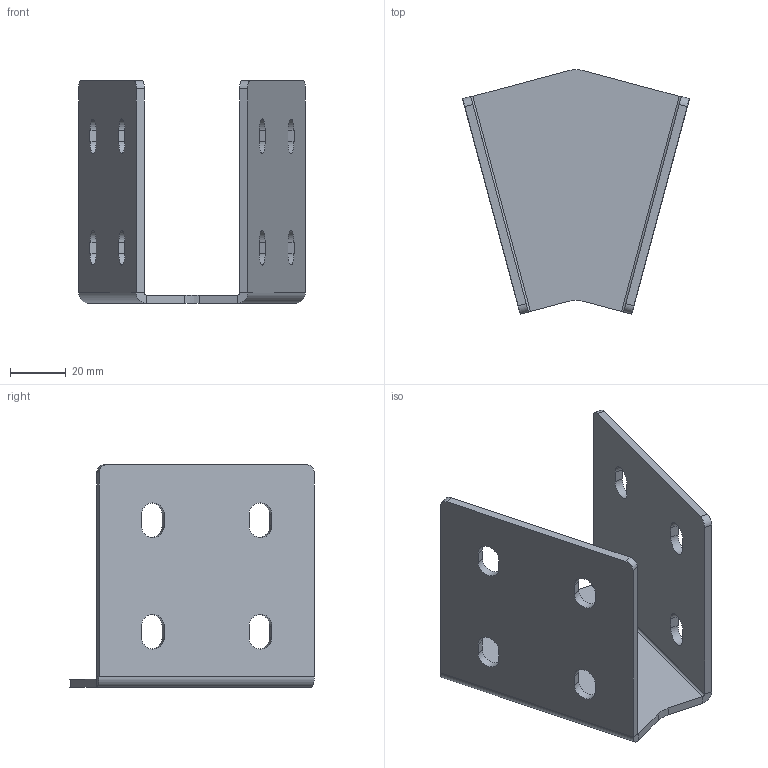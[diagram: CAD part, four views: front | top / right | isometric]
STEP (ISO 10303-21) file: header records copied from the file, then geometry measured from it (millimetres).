
FILE_DESCRIPTION (( 'STEP AP214' ), '1' );
FILE_NAME ('808030.STEP', '2026-09-10T04:22:20', ( '' ), ( '' ), 'SwSTEP 2.0', 'SolidWorks 2022', '' );
FILE_SCHEMA (( 'AUTOMOTIVE_DESIGN' ));
Length unit declared in the file: millimetre
Products named in the file (1): 808030
Bounding box: 81.41 x 87.79 x 80 mm (x, y, z)
Volume: 49368.4 mm3; surface area: 35498.2 mm2
Topology: 1 solids, 1 shells, 62 faces, 164 edges, 104 vertices
Faces by surface type: plane 36, cylinder 26
Entity records: 1978 total; most frequent: DIRECTION 342, CARTESIAN_POINT 331, ORIENTED_EDGE 328, EDGE_CURVE 164, AXIS2_PLACEMENT_3D 115, VECTOR 112, LINE 112, VERTEX_POINT 104
